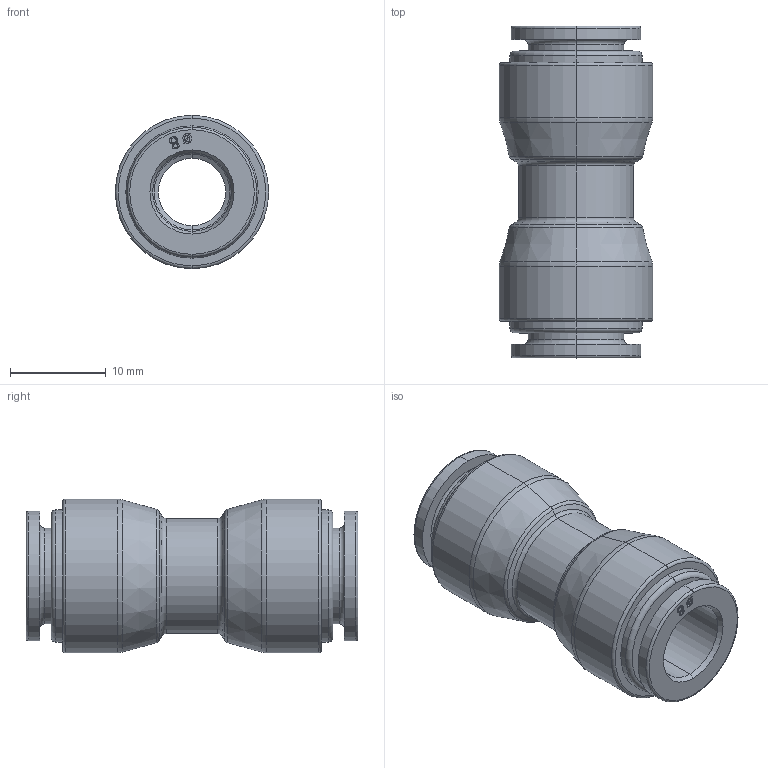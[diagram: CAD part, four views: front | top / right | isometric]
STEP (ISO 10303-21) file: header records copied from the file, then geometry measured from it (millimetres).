
FILE_DESCRIPTION (( 'STEP AP214' ), '1' );
FILE_NAME ('5304000005A.STEP', '2023-03-06T10:32:18', ( '' ), ( '' ), 'SwSTEP 2.0', 'SolidWorks 2020', '' );
FILE_SCHEMA (( 'AUTOMOTIVE_DESIGN' ));
Length unit declared in the file: millimetre
Products named in the file (1): 5304000005A
Bounding box: 16 x 34.6 x 16 mm (x, y, z)
Volume: 3754.7 mm3; surface area: 2990.6 mm2
Topology: 1 solids, 1 shells, 172 faces, 400 edges, 248 vertices
Faces by surface type: bspline 64, plane 36, torus 32, cylinder 24, cone 16
Entity records: 9678 total; most frequent: CARTESIAN_POINT 4181, ORIENTED_EDGE 800, DIRECTION 610, EDGE_CURVE 400, VERTEX_POINT 248, AXIS2_PLACEMENT_3D 229, EDGE_LOOP 192, UNCERTAINTY_MEASURE_WITH_UNIT 175
